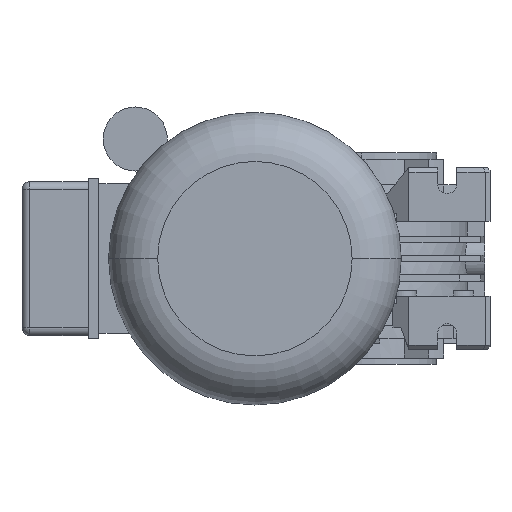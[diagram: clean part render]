
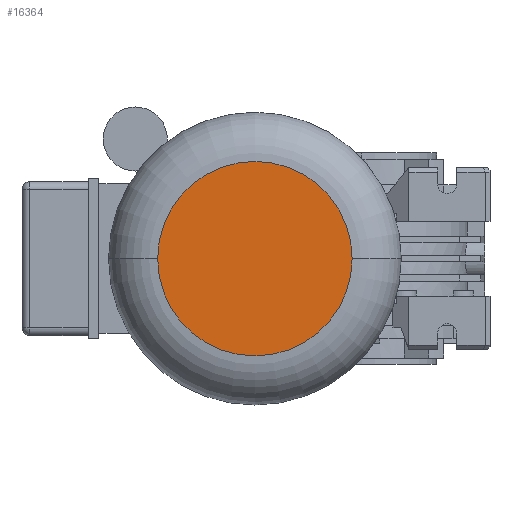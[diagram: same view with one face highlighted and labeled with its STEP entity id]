
A CAD part, left-side view. The second image highlights one B-rep face of the part: STEP entity #16364.
In plain terms, the highlighted planar face has unit normal (-1, 0, 0) as drawn and (0, 0, -1) by its records, which use the part's own axes.
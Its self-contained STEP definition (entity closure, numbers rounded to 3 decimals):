
#464 = VERTEX_POINT ( 'NONE', #31979 ) ;
#1851 = AXIS2_PLACEMENT_3D ( 'NONE', #15524, #5810, #31304 ) ;
#3990 = CARTESIAN_POINT ( 'NONE',  ( 0., 0., -183. ) ) ;
#5810 = DIRECTION ( 'NONE',  ( 0., 0., -1. ) ) ;
#6644 = CIRCLE ( 'NONE', #26556, 45.5 ) ;
#7189 = DIRECTION ( 'NONE',  ( 0., 1., 0. ) ) ;
#8011 = CIRCLE ( 'NONE', #1851, 45.5 ) ;
#8327 = PLANE ( 'NONE',  #30867 ) ;
#11114 = EDGE_CURVE ( 'NONE', #21604, #464, #8011, .T. ) ;
#14694 = DIRECTION ( 'NONE',  ( 0., 0., -1. ) ) ;
#15524 = CARTESIAN_POINT ( 'NONE',  ( 0., 0., -183. ) ) ;
#16258 = FACE_OUTER_BOUND ( 'NONE', #34162, .T. ) ;
#16364 = ADVANCED_FACE ( 'NONE', ( #16258 ), #8327, .T. ) ;
#21604 = VERTEX_POINT ( 'NONE', #36423 ) ;
#22040 = EDGE_CURVE ( 'NONE', #464, #21604, #6644, .T. ) ;
#25488 = ORIENTED_EDGE ( 'NONE', *, *, #22040, .T. ) ;
#26159 = DIRECTION ( 'NONE',  ( 0., 0., -1. ) ) ;
#26556 = AXIS2_PLACEMENT_3D ( 'NONE', #3990, #26159, #7189 ) ;
#27281 = ORIENTED_EDGE ( 'NONE', *, *, #11114, .T. ) ;
#30867 = AXIS2_PLACEMENT_3D ( 'NONE', #33658, #14694, #39326 ) ;
#31304 = DIRECTION ( 'NONE',  ( 0., 1., 0. ) ) ;
#31979 = CARTESIAN_POINT ( 'NONE',  ( 0., -45.5, -183. ) ) ;
#33658 = CARTESIAN_POINT ( 'NONE',  ( 0., 0., -183. ) ) ;
#34162 = EDGE_LOOP ( 'NONE', ( #27281, #25488 ) ) ;
#36423 = CARTESIAN_POINT ( 'NONE',  ( 0., 45.5, -183. ) ) ;
#39326 = DIRECTION ( 'NONE',  ( -1., 0., 0. ) ) ;
